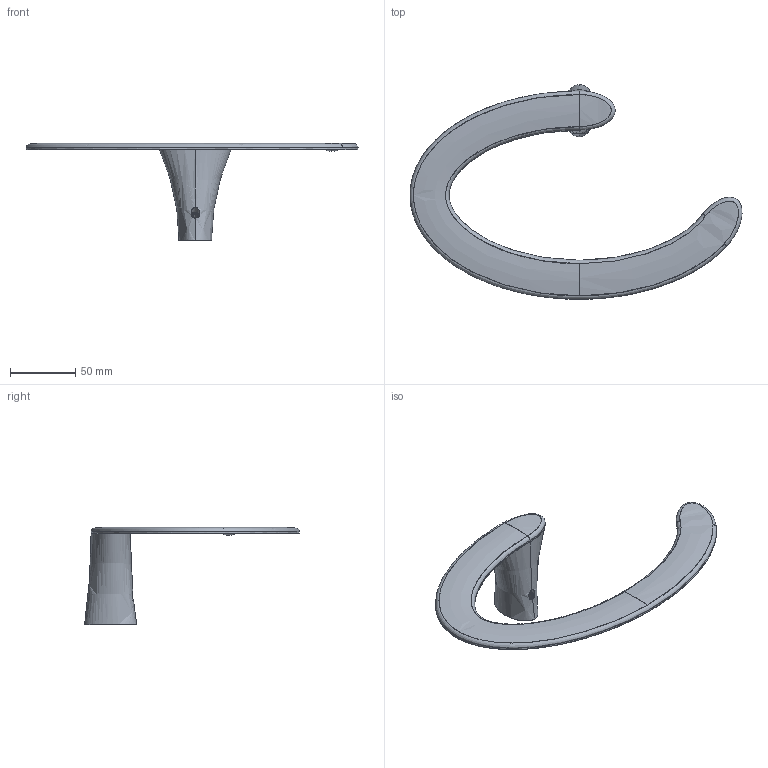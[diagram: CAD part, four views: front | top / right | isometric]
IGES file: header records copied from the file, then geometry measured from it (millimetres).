
Start section: SolidWorks IGES file using analytic representation for surfaces
Global section: file name: G:\Projects\New project\For Marketing\IGS\IGS\2015-12-25\762005001VW.IGS; native system: SolidWorks 2010; preprocessor: SolidWorks 2010; author: linda; date: 151230.145629; units: millimetre
Bounding box: 254.99 x 165 x 75 mm (x, y, z)
Surface area: 40831.8 mm2 (no closed solid volume)
Topology: 0 solids, 0 shells, 64 faces, 1439 edges, 1438 vertices
Faces by surface type: bspline 41, revolution 23
